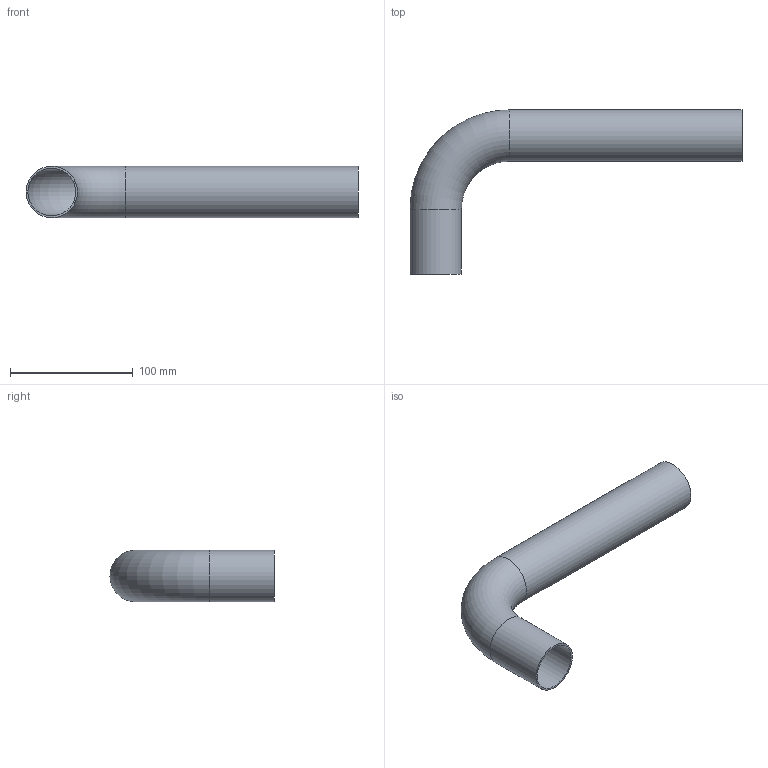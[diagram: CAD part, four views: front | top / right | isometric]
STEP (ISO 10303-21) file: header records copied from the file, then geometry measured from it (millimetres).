
FILE_DESCRIPTION((''),'2;1');
FILE_NAME('G:\Technics\CAD\Bauteile\042\6900342(1).stp','2008-03-03T13:39:43',('herberg'),(''),'Autodesk Inventor 2008','Autodesk Inventor 2008','');
FILE_SCHEMA(('AUTOMOTIVE_DESIGN { 1 0 10303 214 1 1 1 1 }'));
Length unit declared in the file: millimetre
Products named in the file (1): 6900342(1)
Bounding box: 271 x 134 x 42 mm (x, y, z)
Volume: 64364.3 mm3; surface area: 86200.8 mm2
Topology: 1 solids, 1 shells, 8 faces, 14 edges, 8 vertices
Faces by surface type: cylinder 4, torus 2, plane 2
Full cylindrical faces by diameter (mm): 39 x2, 42 x2
Entity records: 194 total; most frequent: DIRECTION 34, CARTESIAN_POINT 25, AXIS2_PLACEMENT_3D 17, ORIENTED_EDGE 16, EDGE_LOOP 16, VERTEX_POINT 8, CIRCLE 8, EDGE_CURVE 8
